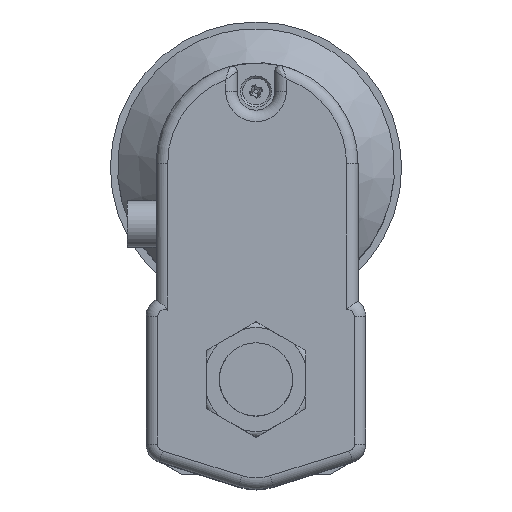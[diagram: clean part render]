
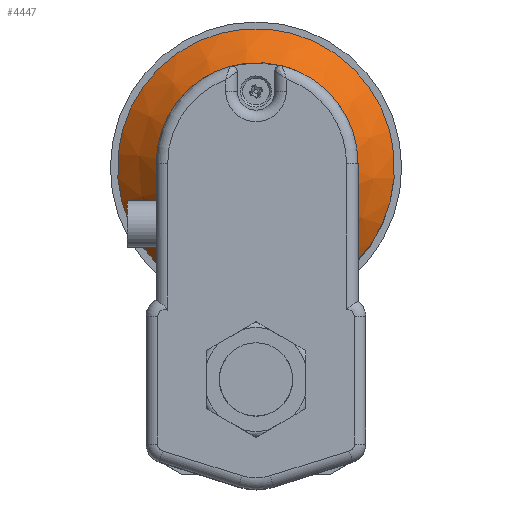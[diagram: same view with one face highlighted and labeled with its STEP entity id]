
A CAD part, top view. The second image highlights one B-rep face of the part: STEP entity #4447.
In plain terms, the highlighted conical face has half-angle 45 degrees and reference radius 48 mm.
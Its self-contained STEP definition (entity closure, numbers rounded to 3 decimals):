
#30 = VERTEX_POINT ( 'NONE', #1061 ) ;
#31 = VERTEX_POINT ( 'NONE', #1058 ) ;
#539 = VERTEX_POINT ( 'NONE', #540 ) ;
#540 = CARTESIAN_POINT ( 'NONE',  ( 0., 39.9, 67.5 ) ) ;
#1058 = CARTESIAN_POINT ( 'NONE',  ( 27.908, 34.847, 53.5 ) ) ;
#1061 = CARTESIAN_POINT ( 'NONE',  ( -27.908, 34.847, 53.5 ) ) ;
#1820 = AXIS2_PLACEMENT_3D ( 'NONE', #9089, #9090, #9078 ) ;
#2545 = FACE_OUTER_BOUND ( 'NONE', #4718, .T. ) ;
#2546 = CONICAL_SURFACE ( 'NONE', #1820, 48., 0.785 ) ;
#2549 = FACE_BOUND ( 'NONE', #4716, .T. ) ;
#2575 = AXIS2_PLACEMENT_3D ( 'NONE', #7358, #7377, #7378 ) ;
#2621 = AXIS2_PLACEMENT_3D ( 'NONE', #7363, #7380, #7381 ) ;
#4001 = EDGE_CURVE ( 'NONE', #30, #31, #5523, .T. ) ;
#4030 = EDGE_CURVE ( 'NONE', #31, #30, #6533, .T. ) ;
#4031 = EDGE_CURVE ( 'NONE', #539, #539, #6535, .T. ) ;
#4447 = ADVANCED_FACE ( 'NONE', ( #2549, #2545 ), #2546, .T. ) ;
#4716 = EDGE_LOOP ( 'NONE', ( #5639 ) ) ;
#4718 = EDGE_LOOP ( 'NONE', ( #5640, #5641 ) ) ;
#5523 = B_SPLINE_CURVE_WITH_KNOTS ( 'NONE', 3,
 ( #7249, #7256, #7257, #7259, #7260, #7261, #7262, #7263, #7264, #7266, #7267, #7268, #7269, #7270, #7271, #7272, #7273, #7274, #7275, #7276, #7277, #7278, #7279, #7280, #7281, #7282 ),
 .UNSPECIFIED., .F., .F.,
 ( 4, 2, 2, 2, 2, 2, 2, 2, 2, 2, 2, 2, 4 ),
 ( 0., 0.004, 0.007, 0.015, 0.018, 0.022, 0.026, 0.029, 0.037, 0.04, 0.044, 0.051, 0.059 ),
 .UNSPECIFIED. ) ;
#5639 = ORIENTED_EDGE ( 'NONE', *, *, #4031, .F. ) ;
#5640 = ORIENTED_EDGE ( 'NONE', *, *, #4030, .T. ) ;
#5641 = ORIENTED_EDGE ( 'NONE', *, *, #4001, .T. ) ;
#6533 = CIRCLE ( 'NONE', #2575, 48. ) ;
#6535 = CIRCLE ( 'NONE', #2621, 34. ) ;
#7249 = CARTESIAN_POINT ( 'NONE',  ( -27.908, 34.847, 53.5 ) ) ;
#7256 = CARTESIAN_POINT ( 'NONE',  ( -26.826, 34.768, 54.065 ) ) ;
#7257 = CARTESIAN_POINT ( 'NONE',  ( -25.733, 34.688, 54.609 ) ) ;
#7259 = CARTESIAN_POINT ( 'NONE',  ( -23.531, 34.53, 55.644 ) ) ;
#7260 = CARTESIAN_POINT ( 'NONE',  ( -22.421, 34.452, 56.137 ) ) ;
#7261 = CARTESIAN_POINT ( 'NONE',  ( -19.06, 34.223, 57.53 ) ) ;
#7262 = CARTESIAN_POINT ( 'NONE',  ( -16.779, 34.077, 58.344 ) ) ;
#7263 = CARTESIAN_POINT ( 'NONE',  ( -13.28, 33.887, 59.356 ) ) ;
#7264 = CARTESIAN_POINT ( 'NONE',  ( -12.101, 33.829, 59.657 ) ) ;
#7266 = CARTESIAN_POINT ( 'NONE',  ( -9.715, 33.725, 60.183 ) ) ;
#7267 = CARTESIAN_POINT ( 'NONE',  ( -8.505, 33.679, 60.407 ) ) ;
#7268 = CARTESIAN_POINT ( 'NONE',  ( -6.081, 33.605, 60.767 ) ) ;
#7269 = CARTESIAN_POINT ( 'NONE',  ( -4.863, 33.577, 60.903 ) ) ;
#7270 = CARTESIAN_POINT ( 'NONE',  ( -2.415, 33.538, 61.085 ) ) ;
#7271 = CARTESIAN_POINT ( 'NONE',  ( -1.188, 33.529, 61.13 ) ) ;
#7272 = CARTESIAN_POINT ( 'NONE',  ( 2.477, 33.529, 61.127 ) ) ;
#7273 = CARTESIAN_POINT ( 'NONE',  ( 4.908, 33.569, 60.942 ) ) ;
#7274 = CARTESIAN_POINT ( 'NONE',  ( 8.537, 33.68, 60.402 ) ) ;
#7275 = CARTESIAN_POINT ( 'NONE',  ( 9.746, 33.726, 60.177 ) ) ;
#7276 = CARTESIAN_POINT ( 'NONE',  ( 12.13, 33.83, 59.65 ) ) ;
#7277 = CARTESIAN_POINT ( 'NONE',  ( 13.307, 33.888, 59.348 ) ) ;
#7278 = CARTESIAN_POINT ( 'NONE',  ( 16.801, 34.078, 58.337 ) ) ;
#7279 = CARTESIAN_POINT ( 'NONE',  ( 19.078, 34.224, 57.523 ) ) ;
#7280 = CARTESIAN_POINT ( 'NONE',  ( 23.55, 34.529, 55.668 ) ) ;
#7281 = CARTESIAN_POINT ( 'NONE',  ( 25.745, 34.688, 54.629 ) ) ;
#7282 = CARTESIAN_POINT ( 'NONE',  ( 27.908, 34.847, 53.5 ) ) ;
#7358 = CARTESIAN_POINT ( 'NONE',  ( 0., 73.9, 53.5 ) ) ;
#7363 = CARTESIAN_POINT ( 'NONE',  ( 0., 73.9, 67.5 ) ) ;
#7377 = DIRECTION ( 'NONE',  ( 0., 0., 1. ) ) ;
#7378 = DIRECTION ( 'NONE',  ( 0., -1., 0. ) ) ;
#7380 = DIRECTION ( 'NONE',  ( 0., 0., 1. ) ) ;
#7381 = DIRECTION ( 'NONE',  ( 0., -1., 0. ) ) ;
#9078 = DIRECTION ( 'NONE',  ( 0., 1., 0. ) ) ;
#9089 = CARTESIAN_POINT ( 'NONE',  ( 0., 73.9, 53.5 ) ) ;
#9090 = DIRECTION ( 'NONE',  ( 0., 0., -1. ) ) ;
